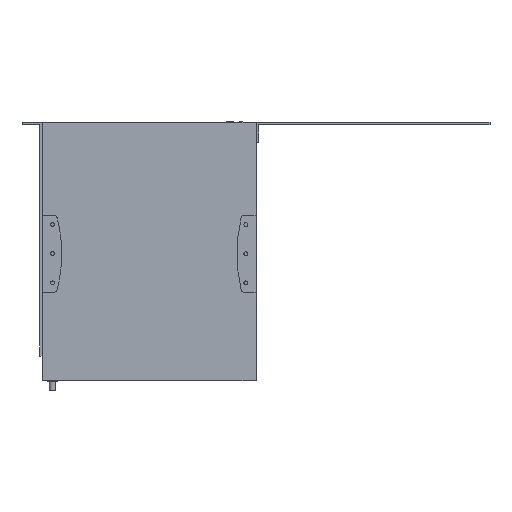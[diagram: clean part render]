
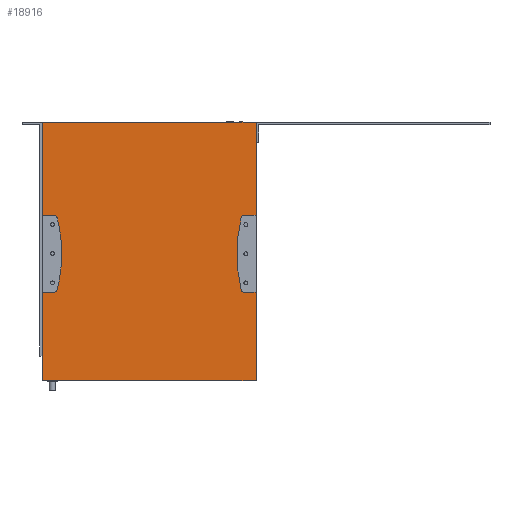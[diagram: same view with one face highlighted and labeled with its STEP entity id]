
A CAD part, front view. The second image highlights one B-rep face of the part: STEP entity #18916.
In plain terms, the highlighted planar face has unit normal (0, -1, 0).
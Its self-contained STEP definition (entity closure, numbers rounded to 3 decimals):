
#154 = EDGE_CURVE ( 'NONE', #15871, #9900, #14771, .T. ) ;
#160 = VECTOR ( 'NONE', #7545, 1000. ) ;
#202 = DIRECTION ( 'NONE',  ( -1., 0., 0. ) ) ;
#329 = EDGE_CURVE ( 'NONE', #10849, #17030, #24658, .T. ) ;
#378 = DIRECTION ( 'NONE',  ( -1., 0., 0. ) ) ;
#416 = CARTESIAN_POINT ( 'NONE',  ( -98.378, -21.8, 37.5 ) ) ;
#552 = CARTESIAN_POINT ( 'NONE',  ( 110.07, -21.8, 133.295 ) ) ;
#2129 = CIRCLE ( 'NONE', #4471, 3.8 ) ;
#2163 = DIRECTION ( 'NONE',  ( 0., -1., 0. ) ) ;
#3055 = CIRCLE ( 'NONE', #20087, 3.8 ) ;
#3126 = DIRECTION ( 'NONE',  ( 0., -1., 0. ) ) ;
#3357 = CARTESIAN_POINT ( 'NONE',  ( -98.378, -21.8, -42.1 ) ) ;
#3783 = CIRCLE ( 'NONE', #21224, 3.8 ) ;
#4136 = DIRECTION ( 'NONE',  ( -1., 0., 0. ) ) ;
#4146 = EDGE_CURVE ( 'NONE', #7544, #23759, #27402, .T. ) ;
#4158 = CARTESIAN_POINT ( 'NONE',  ( 98.378, -21.8, 33.7 ) ) ;
#4234 = VERTEX_POINT ( 'NONE', #13671 ) ;
#4320 = VECTOR ( 'NONE', #24263, 1000. ) ;
#4330 = ORIENTED_EDGE ( 'NONE', *, *, #24573, .F. ) ;
#4434 = CARTESIAN_POINT ( 'NONE',  ( -98.378, -21.8, -42.1 ) ) ;
#4471 = AXIS2_PLACEMENT_3D ( 'NONE', #4158, #26762, #6526 ) ;
#4526 = VECTOR ( 'NONE', #25675, 1000. ) ;
#5253 = ORIENTED_EDGE ( 'NONE', *, *, #22591, .T. ) ;
#5420 = VERTEX_POINT ( 'NONE', #11781 ) ;
#5452 = CARTESIAN_POINT ( 'NONE',  ( 98.378, -21.8, -42.1 ) ) ;
#5559 = CARTESIAN_POINT ( 'NONE',  ( 110.07, -21.8, -133.295 ) ) ;
#5597 = DIRECTION ( 'NONE',  ( 1., 0., 0. ) ) ;
#5713 = DIRECTION ( 'NONE',  ( 0., 0., -1. ) ) ;
#5915 = ORIENTED_EDGE ( 'NONE', *, *, #154, .F. ) ;
#5964 = AXIS2_PLACEMENT_3D ( 'NONE', #8483, #20272, #6269 ) ;
#6105 = ORIENTED_EDGE ( 'NONE', *, *, #4146, .F. ) ;
#6139 = VECTOR ( 'NONE', #25649, 1000. ) ;
#6179 = EDGE_CURVE ( 'NONE', #12723, #7544, #15695, .T. ) ;
#6269 = DIRECTION ( 'NONE',  ( -1., 0., 0. ) ) ;
#6354 = CARTESIAN_POINT ( 'NONE',  ( -110.07, -21.8, 133.295 ) ) ;
#6379 = LINE ( 'NONE', #4434, #4320 ) ;
#6526 = DIRECTION ( 'NONE',  ( 1., 0., 0. ) ) ;
#6987 = DIRECTION ( 'NONE',  ( 0., -1., 0. ) ) ;
#7080 = EDGE_CURVE ( 'NONE', #23759, #5420, #2129, .T. ) ;
#7111 = VERTEX_POINT ( 'NONE', #25409 ) ;
#7222 = CARTESIAN_POINT ( 'NONE',  ( -110.07, -21.8, -133.295 ) ) ;
#7544 = VERTEX_POINT ( 'NONE', #27999 ) ;
#7545 = DIRECTION ( 'NONE',  ( 0., 0., -1. ) ) ;
#7592 = EDGE_CURVE ( 'NONE', #5420, #10193, #8755, .T. ) ;
#7781 = CARTESIAN_POINT ( 'NONE',  ( 98.378, -21.8, -38.3 ) ) ;
#7850 = EDGE_CURVE ( 'NONE', #12148, #12295, #27626, .T. ) ;
#7935 = DIRECTION ( 'NONE',  ( 0., -1., 0. ) ) ;
#8154 = DIRECTION ( 'NONE',  ( 0., 1., 0. ) ) ;
#8305 = CARTESIAN_POINT ( 'NONE',  ( 94.695, -21.8, -39.237 ) ) ;
#8483 = CARTESIAN_POINT ( 'NONE',  ( -239.87, -21.8, -2.3 ) ) ;
#8755 = CIRCLE ( 'NONE', #25250, 149.8 ) ;
#8968 = EDGE_CURVE ( 'NONE', #7111, #14112, #3055, .T. ) ;
#8978 = ORIENTED_EDGE ( 'NONE', *, *, #7592, .F. ) ;
#9366 = EDGE_CURVE ( 'NONE', #14112, #4234, #27444, .T. ) ;
#9501 = EDGE_CURVE ( 'NONE', #12965, #12723, #28180, .T. ) ;
#9514 = CARTESIAN_POINT ( 'NONE',  ( 98.378, -21.8, 37.5 ) ) ;
#9562 = LINE ( 'NONE', #552, #20849 ) ;
#9617 = CARTESIAN_POINT ( 'NONE',  ( 110.07, -21.8, 133.295 ) ) ;
#9900 = VERTEX_POINT ( 'NONE', #13977 ) ;
#10193 = VERTEX_POINT ( 'NONE', #8305 ) ;
#10360 = FACE_OUTER_BOUND ( 'NONE', #19315, .T. ) ;
#10414 = ORIENTED_EDGE ( 'NONE', *, *, #7080, .F. ) ;
#10682 = CIRCLE ( 'NONE', #5964, 149.8 ) ;
#10849 = VERTEX_POINT ( 'NONE', #20747 ) ;
#11147 = VECTOR ( 'NONE', #27018, 1000. ) ;
#11781 = CARTESIAN_POINT ( 'NONE',  ( 94.695, -21.8, 34.637 ) ) ;
#11919 = VECTOR ( 'NONE', #378, 1000. ) ;
#12127 = CARTESIAN_POINT ( 'NONE',  ( -98.378, -21.8, 33.7 ) ) ;
#12148 = VERTEX_POINT ( 'NONE', #3357 ) ;
#12295 = VERTEX_POINT ( 'NONE', #19759 ) ;
#12539 = AXIS2_PLACEMENT_3D ( 'NONE', #27079, #6987, #202 ) ;
#12723 = VERTEX_POINT ( 'NONE', #9617 ) ;
#12752 = ORIENTED_EDGE ( 'NONE', *, *, #24406, .F. ) ;
#12965 = VERTEX_POINT ( 'NONE', #6354 ) ;
#13161 = DIRECTION ( 'NONE',  ( 0., -1., 0. ) ) ;
#13248 = EDGE_CURVE ( 'NONE', #10193, #15871, #3783, .T. ) ;
#13291 = VERTEX_POINT ( 'NONE', #5559 ) ;
#13671 = CARTESIAN_POINT ( 'NONE',  ( -110.07, -21.8, 37.5 ) ) ;
#13905 = LINE ( 'NONE', #15982, #160 ) ;
#13977 = CARTESIAN_POINT ( 'NONE',  ( 110.07, -21.8, -42.1 ) ) ;
#14112 = VERTEX_POINT ( 'NONE', #25300 ) ;
#14124 = VECTOR ( 'NONE', #17428, 1000. ) ;
#14771 = LINE ( 'NONE', #5452, #24506 ) ;
#15121 = CARTESIAN_POINT ( 'NONE',  ( 110.07, -21.8, 133.295 ) ) ;
#15556 = VERTEX_POINT ( 'NONE', #22189 ) ;
#15658 = CARTESIAN_POINT ( 'NONE',  ( -239.87, -21.8, -2.3 ) ) ;
#15695 = LINE ( 'NONE', #15121, #20654 ) ;
#15871 = VERTEX_POINT ( 'NONE', #24928 ) ;
#15982 = CARTESIAN_POINT ( 'NONE',  ( -110.07, -21.8, 133.295 ) ) ;
#16190 = CARTESIAN_POINT ( 'NONE',  ( -110.07, -21.8, 133.295 ) ) ;
#16611 = AXIS2_PLACEMENT_3D ( 'NONE', #15658, #13161, #4136 ) ;
#16727 = DIRECTION ( 'NONE',  ( -1., 0., 0. ) ) ;
#17030 = VERTEX_POINT ( 'NONE', #24754 ) ;
#17428 = DIRECTION ( 'NONE',  ( 0., 0., -1. ) ) ;
#17802 = ORIENTED_EDGE ( 'NONE', *, *, #13248, .F. ) ;
#18019 = LINE ( 'NONE', #7222, #6139 ) ;
#18518 = ORIENTED_EDGE ( 'NONE', *, *, #27834, .T. ) ;
#18632 = EDGE_CURVE ( 'NONE', #12295, #15556, #10682, .T. ) ;
#18736 = AXIS2_PLACEMENT_3D ( 'NONE', #28390, #8154, #26172 ) ;
#18916 = ADVANCED_FACE ( 'NONE', ( #10360 ), #19371, .F. ) ;
#19002 = ORIENTED_EDGE ( 'NONE', *, *, #6179, .F. ) ;
#19315 = EDGE_LOOP ( 'NONE', ( #4330, #5915, #17802, #8978, #10414, #6105, #19002, #28843, #18518, #20320, #28241, #12752, #23941, #20359, #27664, #27261, #5253 ) ) ;
#19371 = PLANE ( 'NONE',  #18736 ) ;
#19759 = CARTESIAN_POINT ( 'NONE',  ( -94.695, -21.8, -39.237 ) ) ;
#20087 = AXIS2_PLACEMENT_3D ( 'NONE', #12127, #3126, #16727 ) ;
#20169 = DIRECTION ( 'NONE',  ( 1., 0., 0. ) ) ;
#20272 = DIRECTION ( 'NONE',  ( 0., -1., 0. ) ) ;
#20320 = ORIENTED_EDGE ( 'NONE', *, *, #9366, .F. ) ;
#20359 = ORIENTED_EDGE ( 'NONE', *, *, #7850, .F. ) ;
#20654 = VECTOR ( 'NONE', #22198, 1000. ) ;
#20747 = CARTESIAN_POINT ( 'NONE',  ( -110.07, -21.8, -42.1 ) ) ;
#20849 = VECTOR ( 'NONE', #5713, 1000. ) ;
#21224 = AXIS2_PLACEMENT_3D ( 'NONE', #7781, #7935, #28167 ) ;
#21322 = CIRCLE ( 'NONE', #16611, 149.8 ) ;
#22189 = CARTESIAN_POINT ( 'NONE',  ( -90.07, -21.8, -2.3 ) ) ;
#22198 = DIRECTION ( 'NONE',  ( 0., 0., -1. ) ) ;
#22591 = EDGE_CURVE ( 'NONE', #17030, #13291, #18019, .T. ) ;
#23114 = CARTESIAN_POINT ( 'NONE',  ( 98.378, -21.8, 37.5 ) ) ;
#23759 = VERTEX_POINT ( 'NONE', #9514 ) ;
#23941 = ORIENTED_EDGE ( 'NONE', *, *, #18632, .F. ) ;
#24263 = DIRECTION ( 'NONE',  ( 1., 0., 0. ) ) ;
#24406 = EDGE_CURVE ( 'NONE', #15556, #7111, #21322, .T. ) ;
#24506 = VECTOR ( 'NONE', #5597, 1000. ) ;
#24573 = EDGE_CURVE ( 'NONE', #9900, #13291, #9562, .T. ) ;
#24658 = LINE ( 'NONE', #16190, #14124 ) ;
#24754 = CARTESIAN_POINT ( 'NONE',  ( -110.07, -21.8, -133.295 ) ) ;
#24928 = CARTESIAN_POINT ( 'NONE',  ( 98.378, -21.8, -42.1 ) ) ;
#25250 = AXIS2_PLACEMENT_3D ( 'NONE', #27115, #2163, #20169 ) ;
#25300 = CARTESIAN_POINT ( 'NONE',  ( -98.378, -21.8, 37.5 ) ) ;
#25409 = CARTESIAN_POINT ( 'NONE',  ( -94.695, -21.8, 34.637 ) ) ;
#25642 = EDGE_CURVE ( 'Edge4', #10849, #12148, #6379, .T. ) ;
#25649 = DIRECTION ( 'NONE',  ( 1., 0., 0. ) ) ;
#25675 = DIRECTION ( 'NONE',  ( 1., 0., 0. ) ) ;
#25973 = CARTESIAN_POINT ( 'NONE',  ( -110.07, -21.8, 133.295 ) ) ;
#26172 = DIRECTION ( 'NONE',  ( -1., 0., 0. ) ) ;
#26762 = DIRECTION ( 'NONE',  ( 0., -1., 0. ) ) ;
#27018 = DIRECTION ( 'NONE',  ( -1., 0., 0. ) ) ;
#27079 = CARTESIAN_POINT ( 'NONE',  ( -98.378, -21.8, -38.3 ) ) ;
#27115 = CARTESIAN_POINT ( 'NONE',  ( 239.87, -21.8, -2.3 ) ) ;
#27261 = ORIENTED_EDGE ( 'NONE', *, *, #329, .T. ) ;
#27402 = LINE ( 'NONE', #23114, #11919 ) ;
#27444 = LINE ( 'NONE', #416, #11147 ) ;
#27626 = CIRCLE ( 'NONE', #12539, 3.8 ) ;
#27664 = ORIENTED_EDGE ( 'NONE', *, *, #25642, .F. ) ;
#27834 = EDGE_CURVE ( 'NONE', #12965, #4234, #13905, .T. ) ;
#27999 = CARTESIAN_POINT ( 'NONE',  ( 110.07, -21.8, 37.5 ) ) ;
#28167 = DIRECTION ( 'NONE',  ( 1., 0., 0. ) ) ;
#28180 = LINE ( 'NONE', #25973, #4526 ) ;
#28241 = ORIENTED_EDGE ( 'NONE', *, *, #8968, .F. ) ;
#28390 = CARTESIAN_POINT ( 'NONE',  ( -110.07, -21.8, 133.295 ) ) ;
#28843 = ORIENTED_EDGE ( 'NONE', *, *, #9501, .F. ) ;
